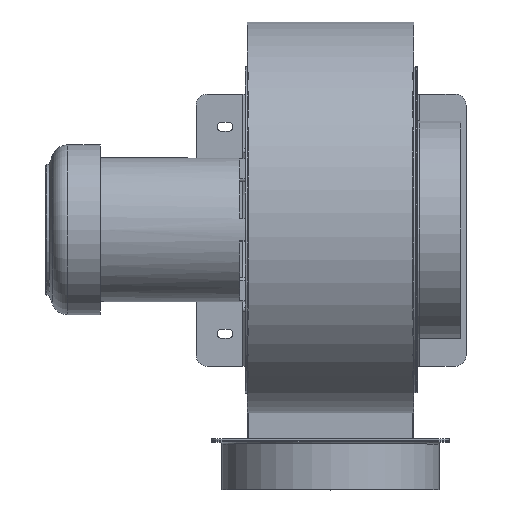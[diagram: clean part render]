
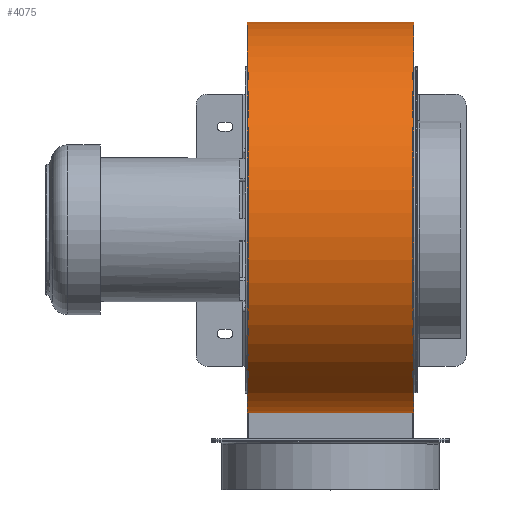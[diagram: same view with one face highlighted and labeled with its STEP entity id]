
A CAD part, top view. The second image highlights one B-rep face of the part: STEP entity #4075.
In plain terms, the highlighted free-form (B-spline) face has degree [3, 1] with [39, 2] control points.
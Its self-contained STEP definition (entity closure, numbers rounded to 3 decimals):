
#71=B_SPLINE_CURVE_WITH_KNOTS('',3,(#6351,#6352,#6353,#6354,#6355,#6356,
#6357,#6358,#6359,#6360,#6361,#6362,#6363,#6364,#6365),.UNSPECIFIED.,.F.,
 .F.,(4,1,1,1,1,1,1,1,1,1,1,1,4),(0.,0.009,0.06,
0.119,0.189,0.268,0.39,
0.486,0.572,0.67,0.8,
0.929,1.),.UNSPECIFIED.);
#72=B_SPLINE_CURVE_WITH_KNOTS('',3,(#6366,#6367,#6368,#6369,#6370,#6371,
#6372,#6373,#6374,#6375,#6376,#6377,#6378,#6379,#6380),.UNSPECIFIED.,.F.,
 .F.,(4,1,1,1,1,1,1,1,1,1,1,1,4),(0.,0.009,0.06,
0.119,0.189,0.268,0.39,
0.486,0.572,0.67,0.8,
0.929,1.),.UNSPECIFIED.);
#75=B_SPLINE_SURFACE_WITH_KNOTS('',3,1,((#6273,#6274),(#6275,#6276),(#6277,
#6278),(#6279,#6280),(#6281,#6282),(#6283,#6284),(#6285,#6286),(#6287,#6288),
(#6289,#6290),(#6291,#6292),(#6293,#6294),(#6295,#6296),(#6297,#6298),(#6299,
#6300),(#6301,#6302),(#6303,#6304),(#6305,#6306),(#6307,#6308),(#6309,#6310),
(#6311,#6312),(#6313,#6314),(#6315,#6316),(#6317,#6318),(#6319,#6320),(#6321,
#6322),(#6323,#6324),(#6325,#6326),(#6327,#6328),(#6329,#6330),(#6331,#6332),
(#6333,#6334),(#6335,#6336),(#6337,#6338),(#6339,#6340),(#6341,#6342),(#6343,
#6344),(#6345,#6346),(#6347,#6348),(#6349,#6350)),
 .SURF_OF_LINEAR_EXTRUSION.,.F.,.F.,.F.,(4,1,1,1,1,1,1,1,1,1,1,1,1,1,1,
1,1,1,1,1,1,1,1,1,1,1,1,1,1,1,1,1,1,1,1,1,4),(2,2),(0.,0.008,0.016,
0.031,0.047,0.063,0.078,0.094,0.125,0.188,0.219,0.25,0.281,
0.313,0.344,0.375,0.406,0.438,0.469,0.5,0.563,0.594,0.625,0.656,
0.688,0.719,0.75,0.781,0.813,0.844,0.875,0.906,0.922,0.938,
0.953,0.969,1.),(0.,1.),.UNSPECIFIED.);
#511=ORIENTED_EDGE('',*,*,#1620,.F.);
#512=ORIENTED_EDGE('',*,*,#1619,.F.);
#513=ORIENTED_EDGE('',*,*,#1621,.T.);
#514=ORIENTED_EDGE('',*,*,#1610,.T.);
#1610=EDGE_CURVE('',#2166,#2164,#2557,.T.);
#1619=EDGE_CURVE('',#2173,#2172,#2566,.T.);
#1620=EDGE_CURVE('',#2172,#2164,#71,.T.);
#1621=EDGE_CURVE('',#2173,#2166,#72,.T.);
#2164=VERTEX_POINT('',#6251);
#2166=VERTEX_POINT('',#6254);
#2172=VERTEX_POINT('',#6269);
#2173=VERTEX_POINT('',#6271);
#2557=LINE('',#6253,#2842);
#2566=LINE('',#6272,#2851);
#2842=VECTOR('',#4942,1000.);
#2851=VECTOR('',#4955,1000.);
#3121=EDGE_LOOP('',(#511,#512,#513,#514));
#3552=FACE_BOUND('',#3121,.T.);
#4075=ADVANCED_FACE('',(#3552),#75,.T.);
#4942=DIRECTION('',(0.,0.,-1.));
#4955=DIRECTION('',(0.,0.,-1.));
#6251=CARTESIAN_POINT('',(-0.506,211.,-76.5));
#6253=CARTESIAN_POINT('',(-0.506,211.,76.5));
#6254=CARTESIAN_POINT('',(-0.506,211.,76.5));
#6269=CARTESIAN_POINT('',(167.597,39.679,-76.5));
#6271=CARTESIAN_POINT('',(167.597,39.679,76.5));
#6272=CARTESIAN_POINT('',(167.597,39.679,76.5));
#6273=CARTESIAN_POINT('',(167.597,39.679,76.5));
#6274=CARTESIAN_POINT('',(167.597,39.679,-76.5));
#6275=CARTESIAN_POINT('',(167.59,37.347,76.5));
#6276=CARTESIAN_POINT('',(167.59,37.347,-76.5));
#6277=CARTESIAN_POINT('',(167.573,32.683,76.5));
#6278=CARTESIAN_POINT('',(167.573,32.683,-76.5));
#6279=CARTESIAN_POINT('',(167.702,23.351,76.5));
#6280=CARTESIAN_POINT('',(167.702,23.351,-76.5));
#6281=CARTESIAN_POINT('',(168.035,11.681,76.5));
#6282=CARTESIAN_POINT('',(168.035,11.681,-76.5));
#6283=CARTESIAN_POINT('',(168.199,-2.316,76.5));
#6284=CARTESIAN_POINT('',(168.199,-2.316,-76.5));
#6285=CARTESIAN_POINT('',(167.6,-16.292,76.5));
#6286=CARTESIAN_POINT('',(167.6,-16.292,-76.5));
#6287=CARTESIAN_POINT('',(165.804,-30.219,76.5));
#6288=CARTESIAN_POINT('',(165.804,-30.219,-76.5));
#6289=CARTESIAN_POINT('',(161.891,-48.564,76.5));
#6290=CARTESIAN_POINT('',(161.891,-48.564,-76.5));
#6291=CARTESIAN_POINT('',(151.058,-79.688,76.5));
#6292=CARTESIAN_POINT('',(151.058,-79.688,-76.5));
#6293=CARTESIAN_POINT('',(129.958,-111.339,76.5));
#6294=CARTESIAN_POINT('',(129.958,-111.339,-76.5));
#6295=CARTESIAN_POINT('',(101.931,-136.575,76.5));
#6296=CARTESIAN_POINT('',(101.931,-136.575,-76.5));
#6297=CARTESIAN_POINT('',(78.042,-151.752,76.5));
#6298=CARTESIAN_POINT('',(78.042,-151.752,-76.5));
#6299=CARTESIAN_POINT('',(51.871,-162.573,76.5));
#6300=CARTESIAN_POINT('',(51.871,-162.573,-76.5));
#6301=CARTESIAN_POINT('',(24.103,-168.764,76.5));
#6302=CARTESIAN_POINT('',(24.103,-168.764,-76.5));
#6303=CARTESIAN_POINT('',(-4.43,-170.508,76.5));
#6304=CARTESIAN_POINT('',(-4.43,-170.508,-76.5));
#6305=CARTESIAN_POINT('',(-32.937,-167.907,76.5));
#6306=CARTESIAN_POINT('',(-32.937,-167.907,-76.5));
#6307=CARTESIAN_POINT('',(-60.577,-161.058,76.5));
#6308=CARTESIAN_POINT('',(-60.577,-161.058,-76.5));
#6309=CARTESIAN_POINT('',(-86.716,-150.179,76.5));
#6310=CARTESIAN_POINT('',(-86.716,-150.179,-76.5));
#6311=CARTESIAN_POINT('',(-110.915,-135.605,76.5));
#6312=CARTESIAN_POINT('',(-110.915,-135.605,-76.5));
#6313=CARTESIAN_POINT('',(-139.935,-111.632,76.5));
#6314=CARTESIAN_POINT('',(-139.935,-111.632,-76.5));
#6315=CARTESIAN_POINT('',(-163.231,-81.632,76.5));
#6316=CARTESIAN_POINT('',(-163.231,-81.632,-76.5));
#6317=CARTESIAN_POINT('',(-179.207,-47.468,76.5));
#6318=CARTESIAN_POINT('',(-179.207,-47.468,-76.5));
#6319=CARTESIAN_POINT('',(-187.28,-20.325,76.5));
#6320=CARTESIAN_POINT('',(-187.28,-20.325,-76.5));
#6321=CARTESIAN_POINT('',(-191.296,7.718,76.5));
#6322=CARTESIAN_POINT('',(-191.296,7.718,-76.5));
#6323=CARTESIAN_POINT('',(-191.037,36.051,76.5));
#6324=CARTESIAN_POINT('',(-191.037,36.051,-76.5));
#6325=CARTESIAN_POINT('',(-186.523,64.084,76.5));
#6326=CARTESIAN_POINT('',(-186.523,64.084,-76.5));
#6327=CARTESIAN_POINT('',(-177.953,91.249,76.5));
#6328=CARTESIAN_POINT('',(-177.953,91.249,-76.5));
#6329=CARTESIAN_POINT('',(-165.496,116.974,76.5));
#6330=CARTESIAN_POINT('',(-165.496,116.974,-76.5));
#6331=CARTESIAN_POINT('',(-149.29,140.691,76.5));
#6332=CARTESIAN_POINT('',(-149.29,140.691,-76.5));
#6333=CARTESIAN_POINT('',(-129.653,161.811,76.5));
#6334=CARTESIAN_POINT('',(-129.653,161.811,-76.5));
#6335=CARTESIAN_POINT('',(-107.2,179.707,76.5));
#6336=CARTESIAN_POINT('',(-107.2,179.707,-76.5));
#6337=CARTESIAN_POINT('',(-86.606,191.412,76.5));
#6338=CARTESIAN_POINT('',(-86.606,191.412,-76.5));
#6339=CARTESIAN_POINT('',(-69.29,198.552,76.5));
#6340=CARTESIAN_POINT('',(-69.29,198.552,-76.5));
#6341=CARTESIAN_POINT('',(-55.952,202.686,76.5));
#6342=CARTESIAN_POINT('',(-55.952,202.686,-76.5));
#6343=CARTESIAN_POINT('',(-42.335,205.708,76.5));
#6344=CARTESIAN_POINT('',(-42.335,205.708,-76.5));
#6345=CARTESIAN_POINT('',(-23.9,208.664,76.5));
#6346=CARTESIAN_POINT('',(-23.9,208.664,-76.5));
#6347=CARTESIAN_POINT('',(-9.863,210.065,76.5));
#6348=CARTESIAN_POINT('',(-9.863,210.065,-76.5));
#6349=CARTESIAN_POINT('',(-0.506,211.,76.5));
#6350=CARTESIAN_POINT('',(-0.506,211.,-76.5));
#6351=CARTESIAN_POINT('',(167.597,39.679,-76.5));
#6352=CARTESIAN_POINT('',(167.589,37.105,-76.5));
#6353=CARTESIAN_POINT('',(167.531,19.281,-76.5));
#6354=CARTESIAN_POINT('',(169.839,-16.376,-76.5));
#6355=CARTESIAN_POINT('',(157.434,-69.886,-76.5));
#6356=CARTESIAN_POINT('',(122.754,-123.153,-76.5));
#6357=CARTESIAN_POINT('',(54.025,-170.162,-76.5));
#6358=CARTESIAN_POINT('',(-40.746,-174.68,-76.5));
#6359=CARTESIAN_POINT('',(-124.199,-132.109,-76.5));
#6360=CARTESIAN_POINT('',(-177.744,-64.759,-76.5));
#6361=CARTESIAN_POINT('',(-200.4,30.036,-76.5));
#6362=CARTESIAN_POINT('',(-166.002,137.753,-76.5));
#6363=CARTESIAN_POINT('',(-81.546,202.904,-76.5));
#6364=CARTESIAN_POINT('',(-21.745,208.879,-76.5));
#6365=CARTESIAN_POINT('',(-0.506,211.,-76.5));
#6366=CARTESIAN_POINT('',(167.597,39.679,76.5));
#6367=CARTESIAN_POINT('',(167.589,37.105,76.5));
#6368=CARTESIAN_POINT('',(167.531,19.281,76.5));
#6369=CARTESIAN_POINT('',(169.839,-16.376,76.5));
#6370=CARTESIAN_POINT('',(157.434,-69.886,76.5));
#6371=CARTESIAN_POINT('',(122.754,-123.153,76.5));
#6372=CARTESIAN_POINT('',(54.025,-170.162,76.5));
#6373=CARTESIAN_POINT('',(-40.746,-174.68,76.5));
#6374=CARTESIAN_POINT('',(-124.199,-132.109,76.5));
#6375=CARTESIAN_POINT('',(-177.744,-64.759,76.5));
#6376=CARTESIAN_POINT('',(-200.4,30.036,76.5));
#6377=CARTESIAN_POINT('',(-166.002,137.753,76.5));
#6378=CARTESIAN_POINT('',(-81.546,202.904,76.5));
#6379=CARTESIAN_POINT('',(-21.745,208.879,76.5));
#6380=CARTESIAN_POINT('',(-0.506,211.,76.5));
